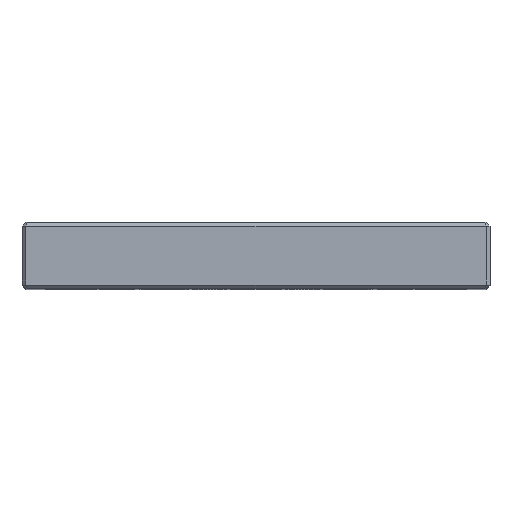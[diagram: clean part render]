
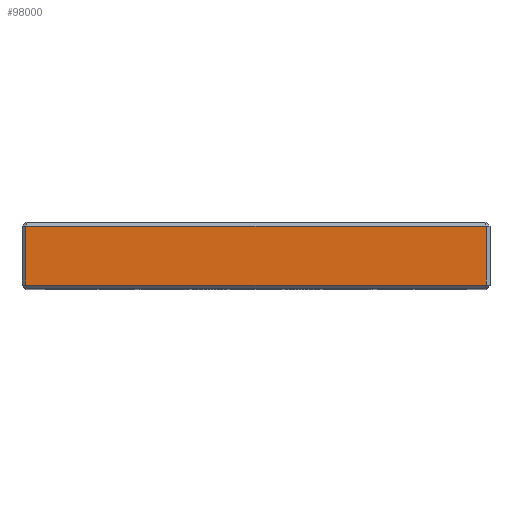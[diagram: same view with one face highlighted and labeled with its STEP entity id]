
A CAD part, top view. The second image highlights one B-rep face of the part: STEP entity #98000.
In plain terms, the highlighted planar face has unit normal (0, 0, 1).
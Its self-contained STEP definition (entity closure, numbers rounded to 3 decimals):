
#41024=DIRECTION('',(1.,0.,0.));
#41025=VECTOR('',#41024,62.5);
#41026=CARTESIAN_POINT('',(-31.25,8.5,31.75));
#41027=LINE('',#41026,#41025);
#41028=DIRECTION('',(0.,-1.,0.));
#41029=VECTOR('',#41028,8.);
#41030=CARTESIAN_POINT('',(31.25,8.5,31.75));
#41031=LINE('',#41030,#41029);
#41032=DIRECTION('',(-1.,0.,0.));
#41033=VECTOR('',#41032,62.5);
#41034=CARTESIAN_POINT('',(31.25,0.5,31.75));
#41035=LINE('',#41034,#41033);
#41036=DIRECTION('',(0.,-1.,0.));
#41037=VECTOR('',#41036,8.);
#41038=CARTESIAN_POINT('',(-31.25,8.5,31.75));
#41039=LINE('',#41038,#41037);
#45120=CARTESIAN_POINT('',(-31.25,8.5,31.75));
#45121=VERTEX_POINT('',#45120);
#45124=CARTESIAN_POINT('',(31.25,8.5,31.75));
#45125=VERTEX_POINT('',#45124);
#45144=CARTESIAN_POINT('',(-31.25,0.5,31.75));
#45146=VERTEX_POINT('',#45144);
#45170=CARTESIAN_POINT('',(31.25,0.5,31.75));
#45171=VERTEX_POINT('',#45170);
#97987=CARTESIAN_POINT('',(-31.75,0.,31.75));
#97988=DIRECTION('',(0.,0.,1.));
#97989=DIRECTION('',(1.,0.,0.));
#97990=AXIS2_PLACEMENT_3D('',#97987,#97988,#97989);
#97991=PLANE('',#97990);
#97992=ORIENTED_EDGE('',*,*,#97978,.T.);
#97994=ORIENTED_EDGE('',*,*,#97993,.T.);
#97996=ORIENTED_EDGE('',*,*,#97995,.T.);
#97997=ORIENTED_EDGE('',*,*,#97952,.F.);
#97998=EDGE_LOOP('',(#97992,#97994,#97996,#97997));
#97999=FACE_OUTER_BOUND('',#97998,.F.);
#98000=ADVANCED_FACE('',(#97999),#97991,.T.);
#97952=EDGE_CURVE('',#45121,#45146,#41039,.T.);
#97978=EDGE_CURVE('',#45121,#45125,#41027,.T.);
#97993=EDGE_CURVE('',#45125,#45171,#41031,.T.);
#97995=EDGE_CURVE('',#45171,#45146,#41035,.T.);
